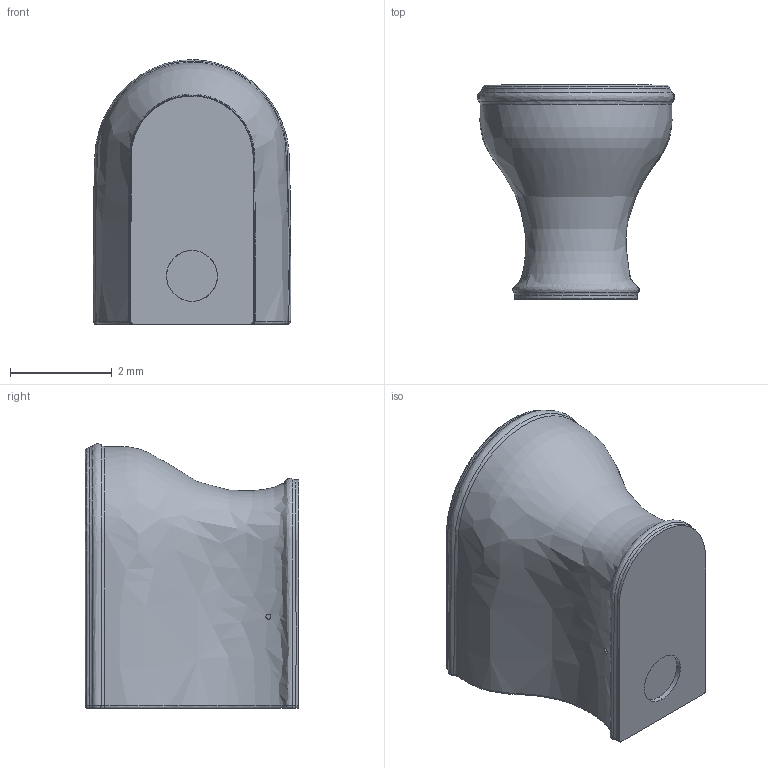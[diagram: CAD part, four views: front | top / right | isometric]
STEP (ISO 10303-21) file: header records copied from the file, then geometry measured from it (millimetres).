
FILE_DESCRIPTION(/* description */ (''),/* implementation_level */ '2;1');
FILE_NAME(/* name */ 'CHVCTT000000',/* time_stamp */ '2018-12-17T15:46:53+01:00',/* author */ (''),/* organization */ (''),/* preprocessor_version */ 'ST-DEVELOPER v15',/* originating_system */ '',/* authorisation */ '');
FILE_SCHEMA (('AUTOMOTIVE_DESIGN'));
Length unit declared in the file: centimetre
Products named in the file (1): Document
Bounding box: 3.89 x 4.2 x 5.2 mm (x, y, z)
Volume: 38.9 mm3; surface area: 111.5 mm2
Topology: 1 solids, 1 shells, 100 faces, 245 edges, 152 vertices
Faces by surface type: bspline 81, plane 19
Entity records: 18940 total; most frequent: CARTESIAN_POINT 17562, ORIENTED_EDGE 482, EDGE_CURVE 241, VERTEX_POINT 152, EDGE_LOOP 109, ADVANCED_FACE 100, FACE_OUTER_BOUND 100, B_SPLINE_CURVE_WITH_KNOTS 95
